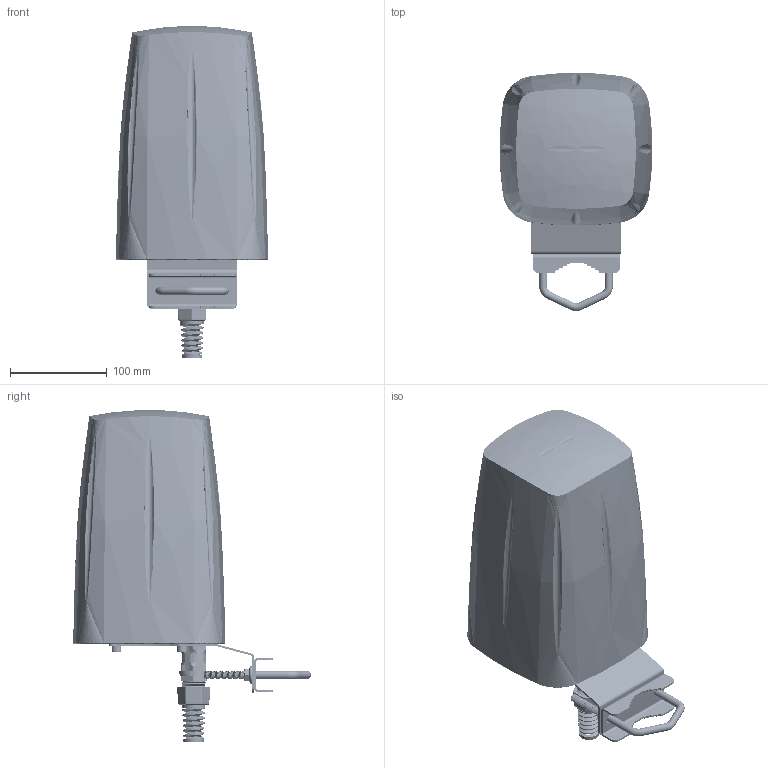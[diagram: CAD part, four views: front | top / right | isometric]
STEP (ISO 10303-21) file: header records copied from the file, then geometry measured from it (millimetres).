
FILE_DESCRIPTION(/* description */ ('WiSPOT OA 2x 0642-4V & 3x 247-7V pod RUTX11'),/* implementation_level */ '2;1');
FILE_NAME(/* name */ 'AX11SUS.stp',/* time_stamp */ '2024-07-01T11:23:20+02:00',/* author */ ('mateusz'),/* organization */ ('Wireless Instruments'),/* preprocessor_version */ 'ST-DEVELOPER v20',/* originating_system */ 'Autodesk Inventor 2025',/* authorisation */ '');
FILE_SCHEMA (('AUTOMOTIVE_DESIGN { 1 0 10303 214 3 1 1 }'));
Products named in the file (40): AX11SUS; DIN 7985 (H) - M4x5-H; WI-OTH-3601C; WI-BOX-4103A; WI-CSE-4103A; WI-CSE-4001A; WI-CSE-0205A; WI-CSE-0002A; WI-CSE-0303A; WI-CSE-0302A; WI-OTH-2102B; WI-MNT-5004A; WI-EMC-0199; WI-MNT-5108A; WI-MET-0275; DIN 6923 - M8; DIN 912 - M6 x 10; WI-KIT-4031Ax; DIN 985 - M3; FH-M3-8 ZI; WI-PLT-4014A; WI-MNT-2126A; WI-MNT-2126B; WI-MNT-1004A; WI-EMC-0292; WI-EMC-0294; BSOS-M3-12; WI-OTH-5101A; DIN 7985 (H) - M3x6-H; WI-CBL-3001A; WI-CON-3001A; WI-CON-3101A; WI-CON-3102A; WI-CON-3103A; WI-CON-3104A; WI-CON-3105A; WI-CON-3106A; WI-CON-3107A; WI-CBL-2003A; WI-CON-2101A
Assembly tree (63 placements, depth 4):
  AX11SUS
    WI-OTH-2102B  x3
    WI-OTH-3601C  x4
    DIN 7985 (H) - M4x5-H
    WI-BOX-4103A
      WI-CSE-4103A
      WI-CSE-4001A
      WI-CSE-0205A
      WI-CSE-0002A
      WI-CSE-0303A
      WI-CSE-0302A  x3
      WI-OTH-2102B  x4
    WI-MNT-5004A
      WI-EMC-0199
      WI-MNT-5108A
      WI-MET-0275
      DIN 6923 - M8  x2
      DIN 912 - M6 x 10  x4
    WI-KIT-4031Ax
      FH-M3-8 ZI  x4
      DIN 985 - M3  x2
      WI-PLT-4014A
      WI-MNT-2126A  x2
      WI-MNT-2126B
    WI-MNT-1004A
      WI-EMC-0292
      WI-EMC-0294
      BSOS-M3-12  x2
      WI-OTH-5101A  x2
      DIN 7985 (H) - M3x6-H  x2
    WI-CBL-3001A
      WI-CON-3001A
        WI-CON-3101A
        WI-CON-3102A
        WI-CON-3103A
        WI-CON-3104A
        WI-CON-3105A  x2
        WI-CON-3106A
        WI-CON-3107A
    WI-CBL-2003A
      WI-CON-2101A
Bounding box: 157.95 x 246.56 x 343.8 mm (x, y, z)
Volume: 634487.3 mm3; surface area: 527137.5 mm2
Topology: 65 solids, 65 shells, 3406 faces, 8932 edges, 5770 vertices
Faces by surface type: plane 1521, cylinder 829, bspline 487, cone 448, torus 101, sphere 20
Full cylindrical faces by diameter (mm): 1.5 x4, 2.2 x4, 2.204 x3, 2.4 x8, 2.459 x4, 2.6 x18, 2.729 x7, 2.75 x2, 3 x37, 3.1 x4, 3.242 x2, 3.434 x34, 3.5 x3, 3.65 x1, 3.683 x1, 3.8 x2, 4 x1, 4.1 x4, 4.2 x8, 4.394 x1, 4.4 x2, 4.521 x1, 4.6 x6, 4.917 x8, 5 x1, 5.207 x1, 5.6 x2, 6 x4, 6.146 x4, 6.2 x4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
Entity records: 148244 total; most frequent: CARTESIAN_POINT 84837, ORIENTED_EDGE 13762, DIRECTION 11929, EDGE_CURVE 6881, AXIS2_PLACEMENT_3D 4511, VERTEX_POINT 4423, LINE 2907, VECTOR 2907
